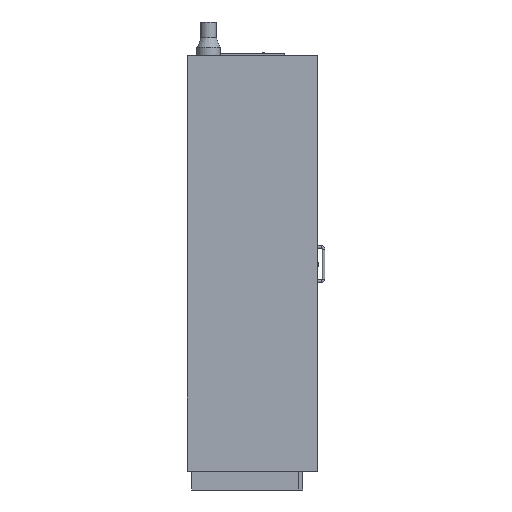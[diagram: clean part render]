
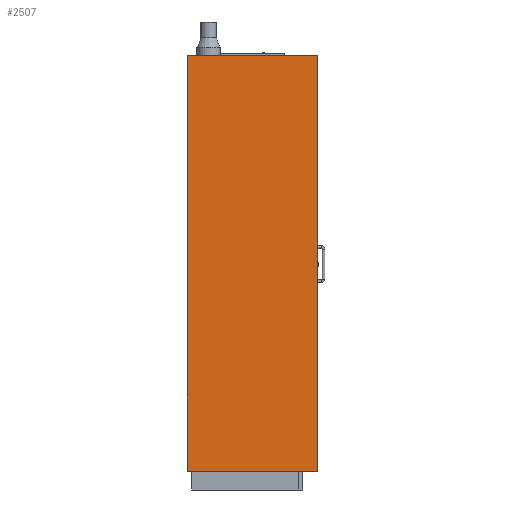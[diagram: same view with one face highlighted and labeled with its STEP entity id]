
A CAD part, left-side view. The second image highlights one B-rep face of the part: STEP entity #2507.
In plain terms, the highlighted planar face has unit normal (-1, 0, 0).
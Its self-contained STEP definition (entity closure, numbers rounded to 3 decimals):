
#81=LINE('',#3381,#269);
#89=LINE('',#3398,#277);
#118=LINE('',#3469,#306);
#123=LINE('',#3479,#311);
#135=LINE('',#3503,#323);
#136=LINE('',#3505,#324);
#137=LINE('',#3507,#325);
#138=LINE('',#3508,#326);
#269=VECTOR('',#2878,1000.);
#277=VECTOR('',#2888,1000.);
#306=VECTOR('',#2947,1000.);
#311=VECTOR('',#2954,1000.);
#323=VECTOR('',#2978,1000.);
#324=VECTOR('',#2981,1000.);
#325=VECTOR('',#2982,1000.);
#326=VECTOR('',#2983,1000.);
#445=PLANE('',#2635);
#707=ORIENTED_EDGE('',*,*,#1083,.T.);
#708=ORIENTED_EDGE('',*,*,#1084,.F.);
#709=ORIENTED_EDGE('',*,*,#1085,.F.);
#710=ORIENTED_EDGE('',*,*,#1033,.F.);
#711=ORIENTED_EDGE('',*,*,#1066,.F.);
#712=ORIENTED_EDGE('',*,*,#1086,.F.);
#713=ORIENTED_EDGE('',*,*,#1071,.F.);
#714=ORIENTED_EDGE('',*,*,#1025,.T.);
#1025=EDGE_CURVE('',#1242,#1243,#81,.T.);
#1033=EDGE_CURVE('',#1250,#1251,#89,.T.);
#1066=EDGE_CURVE('',#1277,#1250,#118,.T.);
#1071=EDGE_CURVE('',#1242,#1280,#123,.T.);
#1083=EDGE_CURVE('',#1243,#1286,#135,.T.);
#1084=EDGE_CURVE('',#1287,#1286,#136,.T.);
#1085=EDGE_CURVE('',#1251,#1287,#137,.T.);
#1086=EDGE_CURVE('',#1280,#1277,#138,.T.);
#1242=VERTEX_POINT('',#3382);
#1243=VERTEX_POINT('',#3383);
#1250=VERTEX_POINT('',#3399);
#1251=VERTEX_POINT('',#3400);
#1277=VERTEX_POINT('',#3470);
#1280=VERTEX_POINT('',#3477);
#1286=VERTEX_POINT('',#3502);
#1287=VERTEX_POINT('',#3506);
#1476=EDGE_LOOP('',(#707,#708,#709,#710,#711,#712,#713,#714));
#1616=FACE_BOUND('',#1476,.T.);
#2507=ADVANCED_FACE('',(#1616),#445,.F.);
#2635=AXIS2_PLACEMENT_3D('',#3504,#2979,#2980);
#2878=DIRECTION('',(0.,1.,0.));
#2888=DIRECTION('',(0.,1.,0.));
#2947=DIRECTION('',(0.,0.,-1.));
#2954=DIRECTION('',(0.,0.,1.));
#2978=DIRECTION('',(0.,0.,1.));
#2979=DIRECTION('',(1.,0.,0.));
#2980=DIRECTION('',(0.,0.,-1.));
#2981=DIRECTION('',(0.,-1.,0.));
#2982=DIRECTION('',(0.,0.,1.));
#2983=DIRECTION('',(0.,-1.,0.));
#3381=CARTESIAN_POINT('',(600.,564.,1954.5));
#3382=CARTESIAN_POINT('',(600.,564.,1954.5));
#3383=CARTESIAN_POINT('',(600.,583.,1954.5));
#3398=CARTESIAN_POINT('',(600.,0.,0.));
#3399=CARTESIAN_POINT('',(600.,0.,0.));
#3400=CARTESIAN_POINT('',(600.,612.,0.));
#3469=CARTESIAN_POINT('',(600.,0.,1956.));
#3470=CARTESIAN_POINT('',(600.,0.,1956.));
#3477=CARTESIAN_POINT('',(600.,564.,1956.));
#3479=CARTESIAN_POINT('',(600.,564.,1954.5));
#3502=CARTESIAN_POINT('',(600.,583.,1956.));
#3503=CARTESIAN_POINT('',(600.,583.,1954.5));
#3504=CARTESIAN_POINT('',(600.,0.,0.));
#3505=CARTESIAN_POINT('',(600.,612.,1956.));
#3506=CARTESIAN_POINT('',(600.,612.,1956.));
#3507=CARTESIAN_POINT('',(600.,612.,0.));
#3508=CARTESIAN_POINT('',(600.,612.,1956.));
